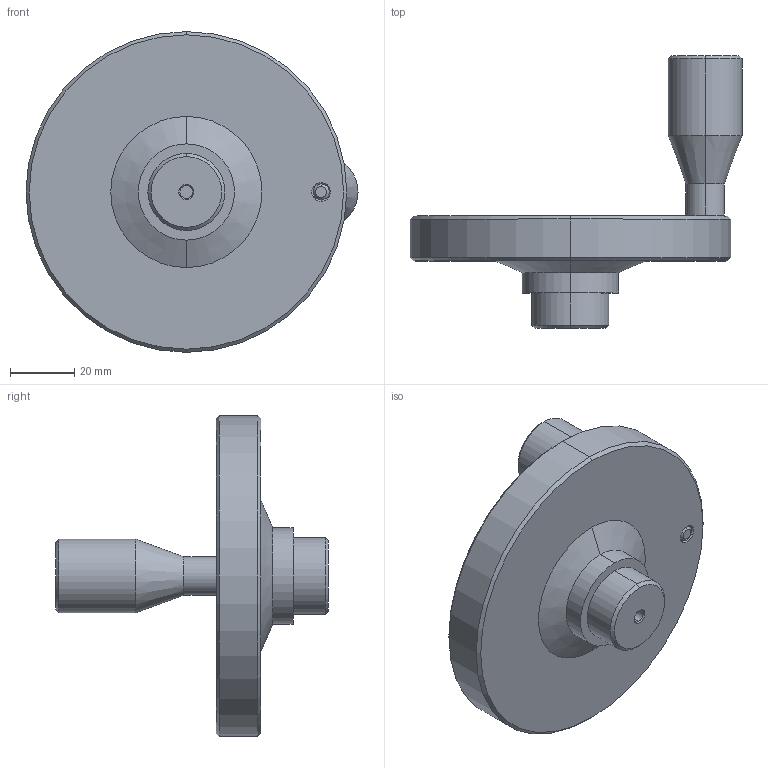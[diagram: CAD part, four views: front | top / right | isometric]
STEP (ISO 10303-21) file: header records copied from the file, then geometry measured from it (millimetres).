
FILE_DESCRIPTION (( 'STEP AP203' ), '1' );
FILE_NAME ('77640.W0100.step', '2019-08-13T15:13:12', ( '' ), ( '' ), 'SwSTEP 2.0', 'SolidWorks 2017', '' );
FILE_SCHEMA (( 'CONFIG_CONTROL_DESIGN' ));
Length unit declared in the file: millimetre
Products named in the file (3): Part1_77640.W0100; Part2_77640.W0100; 77640.W0100
Assembly tree (2 placements, depth 2):
  77640.W0100
    Part1_77640.W0100
    Part2_77640.W0100
Bounding box: 103.5 x 85 x 100 mm (x, y, z)
Volume: 119716 mm3; surface area: 26402.6 mm2
Topology: 2 solids, 2 shells, 59 faces, 116 edges, 68 vertices
Faces by surface type: cone 24, cylinder 24, plane 11
Entity records: 1845 total; most frequent: DIRECTION 308, CARTESIAN_POINT 276, ORIENTED_EDGE 232, AXIS2_PLACEMENT_3D 130, EDGE_CURVE 116, EDGE_LOOP 68, VERTEX_POINT 68, CIRCLE 66
